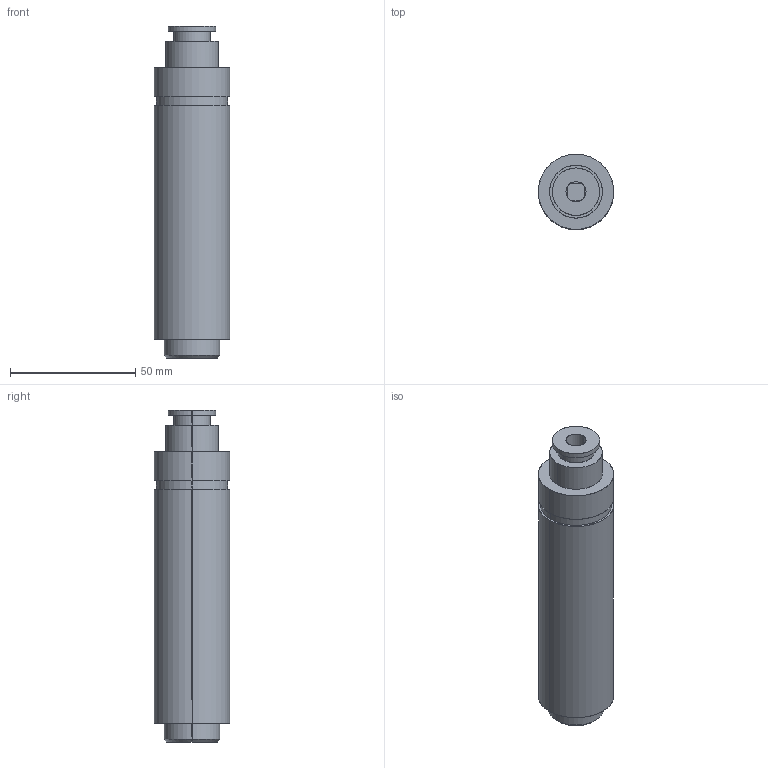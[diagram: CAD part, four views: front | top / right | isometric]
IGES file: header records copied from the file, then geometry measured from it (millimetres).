
Start section: SolidWorks IGES file using analytic representation for surfaces
Global section: file name: R:\Inventor\Kundmodeller Solidworks\Chuckar\042J000034 Tapping spindle with length compensation GS12E JT2.IGS; native system: SolidWorks 2008; preprocessor: SolidWorks 2008; author: Johan; date: 090903.160350; units: millimetre
Bounding box: 30 x 30 x 132.3 mm (x, y, z)
Surface area: 15107.7 mm2 (no closed solid volume)
Topology: 0 solids, 0 shells, 42 faces, 904 edges, 904 vertices
Faces by surface type: bspline 22, revolution 20
